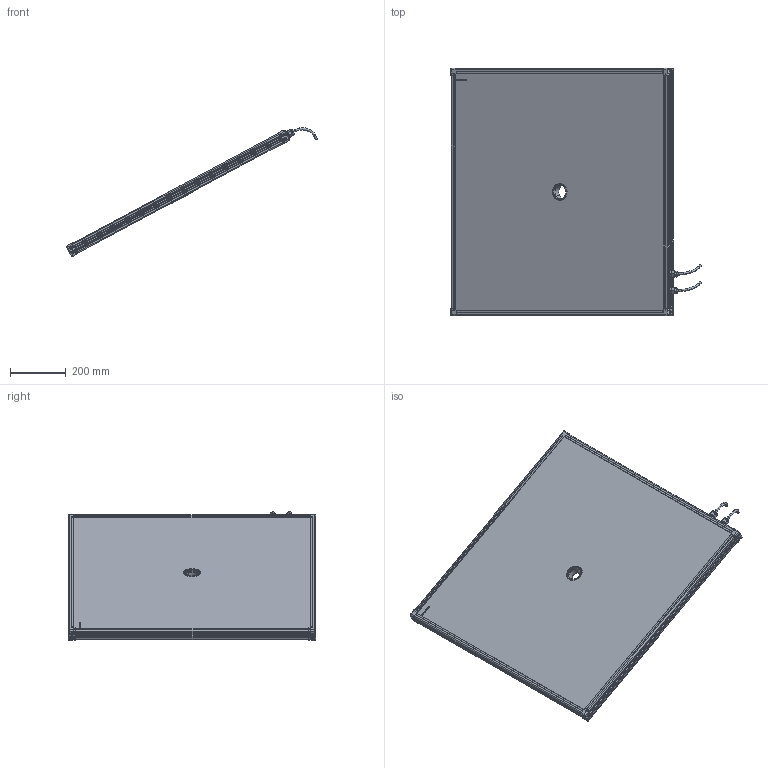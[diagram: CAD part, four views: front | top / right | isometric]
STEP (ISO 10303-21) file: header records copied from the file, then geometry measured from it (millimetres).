
FILE_DESCRIPTION (( 'STEP AP214' ), '1' );
FILE_NAME ('EFFI-FD-850-850-ZZZ-2M12P.STEP', '2021-06-21T10:22:34', ( '' ), ( '' ), 'SwSTEP 2.0', 'SolidWorks 2021', '' );
FILE_SCHEMA (( 'AUTOMOTIVE_DESIGN' ));
Length unit declared in the file: millimetre
Products named in the file (13): 001039; EFFI-FD-850-850-ZZZ-2M12P; Pièce13^EFFI-FD-XXX-YYY-ZZZ (2 connecteurs) M12 POWER Ø50; 000590; 001040; 000629; M12 power; profile Y_PERCE; petite joue + vis; profile X_PERCE; Assemblage Ø50; petite joue
Assembly tree (20 placements, depth 3):
  EFFI-FD-850-850-ZZZ-2M12P
    profile X_PERCE  x2
    profile Y_PERCE
    profile Y_PERCE
    Pièce13^EFFI-FD-XXX-YYY-ZZZ (2 connecteurs) M12 POWER Ø50
    petite joue + vis  x4
      petite joue
      000629
    M12 power  x2
    Assemblage Ø50
      001039
      001040
      000590  x3
Bounding box: 900.17 x 889 x 461.72 mm (x, y, z)
Volume: 27432826.8 mm3; surface area: 2126553.1 mm2
Topology: 22 solids, 28 shells, 4002 faces, 10650 edges, 6994 vertices
Faces by surface type: plane 2479, cylinder 737, bspline 591, cone 154, torus 33, sphere 8
Entity records: 56584 total; most frequent: CARTESIAN_POINT 22742, ORIENTED_EDGE 7114, DIRECTION 5810, EDGE_CURVE 3559, LINE 2478, VECTOR 2478, VERTEX_POINT 2341, AXIS2_PLACEMENT_3D 1666
